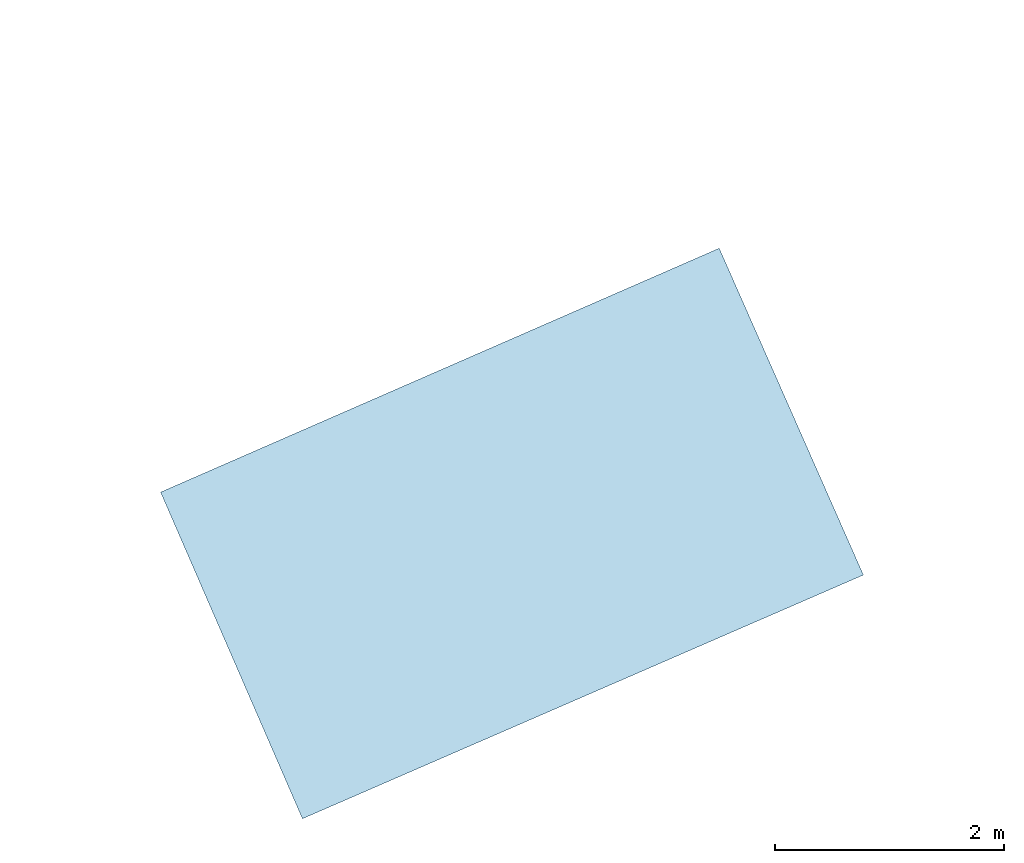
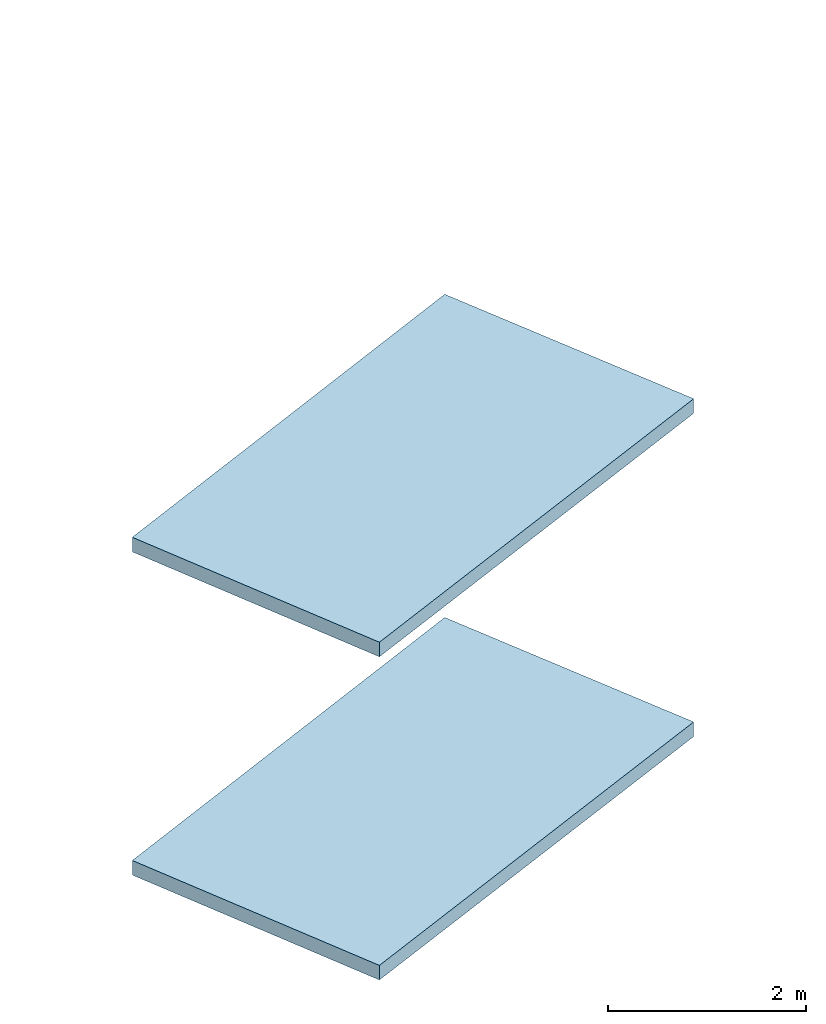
# One storey, part 1 of 31: 2 slabs.
"""IFC2X3 building model written with IfcOpenShell, lengths in centimetres."""

import ifcopenshell
import ifcopenshell.guid

model = None  # the IFC model being written
_history = None  # IfcOwnerHistory: only IFC2X3 demands one
_inside = {}  # id of a spatial element -> (the spatial element, [elements in it])
_under = {}  # id of a project, library or spatial element -> (it, [spatial elements below it])
_declared = {}  # id of a project -> (the project, [libraries it declares])
_typed = {}  # id of a type object -> (the type object, [elements of that type])
_made_of = {}  # id of a material, layer set ... -> (it, [elements and type objects made of it])


def new_model(schema):
    """Start an empty IFC model of exactly this schema.

    Asked for "IFC4X3", IfcOpenShell would pick the latest addendum, in which some entities
    have other attributes; the version numbers below select the first issue.
    IFC2X3 requires an IfcOwnerHistory on every rooted entity: one is made here for all.
    """
    global model, _history
    if schema == "IFC4X3":
        model = ifcopenshell.file(schema_version=(4, 3, 0, 0))
    else:
        model = ifcopenshell.file(schema=schema)
    _inside.clear()
    _under.clear()
    _declared.clear()
    _typed.clear()
    _made_of.clear()
    _history = None
    if model.schema == "IFC2X3":
        org = make("IfcOrganization", Name="unknown")
        user = make(
            "IfcPersonAndOrganization",
            ThePerson=make("IfcPerson", FamilyName="unknown"),
            TheOrganization=org,
        )
        app = make(
            "IfcApplication",
            ApplicationDeveloper=org,
            Version="unknown",
            ApplicationFullName="unknown",
            ApplicationIdentifier="unknown",
        )
        _history = make(
            "IfcOwnerHistory",
            OwningUser=user,
            OwningApplication=app,
            ChangeAction="ADDED",
            CreationDate=0,
        )
    return model


def make(cls, **values):
    """One entity of the class cls with the attributes given. An attribute that is None is left unset."""
    return model.create_entity(
        cls, **{name: value for name, value in values.items() if value is not None}
    )


def entity(cls, *values):
    """Any entity or typed value of the class cls, its attributes in the order of the schema. None: left unset."""
    e = model.create_entity(cls)
    for i, value in enumerate(values):
        if value is not None:
            e[i] = value
    return e


def rooted(cls, **values):
    """An entity with a GlobalId (a new one), such as an element, a storey or a relation."""
    return make(cls, GlobalId=ifcopenshell.guid.new(), OwnerHistory=_history, **values)


def si_unit(unit_type, name, prefix=None):
    """IfcSIUnit, for example si_unit("LENGTHUNIT", "METRE", prefix="MILLI")."""
    return make("IfcSIUnit", UnitType=unit_type, Prefix=prefix, Name=name)


def converted_unit(unit_type, name, factor, base, dimensions=None, offset=None):
    """IfcConversionBasedUnit, such as the inch: factor (a typed value) times the base unit."""
    return make(
        "IfcConversionBasedUnit"
        if offset is None
        else "IfcConversionBasedUnitWithOffset",
        ConversionOffset=offset,
        Dimensions=None
        if dimensions is None
        else entity("IfcDimensionalExponents", *dimensions),
        UnitType=unit_type,
        Name=name,
        ConversionFactor=make(
            "IfcMeasureWithUnit", ValueComponent=factor, UnitComponent=base
        ),
    )


def derived_unit(unit_type, elements):
    """IfcDerivedUnit: a product of units, each with its exponent."""
    return make(
        "IfcDerivedUnit",
        Elements=[
            make("IfcDerivedUnitElement", Unit=unit, Exponent=power)
            for unit, power in elements
        ],
        UnitType=unit_type,
    )


def assignment(units):
    """IfcUnitAssignment: the units of a project."""
    return None if units is None else make("IfcUnitAssignment", Units=units)


def point(xyz):
    """IfcCartesianPoint."""
    return None if xyz is None else make("IfcCartesianPoint", Coordinates=xyz)


def direction(xyz):
    """IfcDirection."""
    return None if xyz is None else make("IfcDirection", DirectionRatios=xyz)


def frame(location, z_axis=None, x_axis=None):
    """IfcAxis2Placement3D, a coordinate frame: its origin and axes. An axis left out is left unset."""
    return make(
        "IfcAxis2Placement3D",
        Location=point(location),
        Axis=direction(z_axis),
        RefDirection=direction(x_axis),
    )


def origin():
    """The frame at (0, 0, 0) with its axes left unset."""
    return frame((0.0, 0.0, 0.0))


def place(relative_to, where):
    """IfcLocalPlacement: puts the frame where relative to a parent placement (None: the world)."""
    return make(
        "IfcLocalPlacement", PlacementRelTo=relative_to, RelativePlacement=where
    )


def context(
    kind, dimensions, precision=None, world=None, true_north=None, identifier=None
):
    """IfcGeometricRepresentationContext, for example the 3D "Model" context."""
    return make(
        "IfcGeometricRepresentationContext",
        ContextIdentifier=identifier,
        ContextType=kind,
        CoordinateSpaceDimension=dimensions,
        Precision=precision,
        WorldCoordinateSystem=world,
        TrueNorth=true_north,
    )


def subcontext(parent, identifier, kind, view, scale=None):
    """IfcGeometricRepresentationSubContext, for example "Body" below "Model"."""
    return make(
        "IfcGeometricRepresentationSubContext",
        ContextIdentifier=identifier,
        ContextType=kind,
        ParentContext=parent,
        TargetScale=scale,
        TargetView=view,
    )


def project(units=None, contexts=None):
    """IfcProject with its units and contexts."""
    return rooted(
        "IfcProject",
        Name="project",
        RepresentationContexts=contexts,
        UnitsInContext=assignment(units),
    )


def spatial(cls, under=None, at=None, **own):
    """A site, building, storey or space (cls), placed at a placement, below another one or the project."""
    s = rooted(cls, ObjectPlacement=at, **own)
    if under is not None:
        _under.setdefault(under.id(), (under, []))[1].append(s)
    return s


def polyline(points):
    """IfcPolyline through the points."""
    return make("IfcPolyline", Points=[point(p) for p in points])


def outline(outer, holes=None, kind="AREA"):
    """IfcArbitraryClosedProfileDef: a profile drawn as a closed curve; with holes, ...WithVoids."""
    if holes is None:
        return make("IfcArbitraryClosedProfileDef", ProfileType=kind, OuterCurve=outer)
    return make(
        "IfcArbitraryProfileDefWithVoids",
        ProfileType=kind,
        OuterCurve=outer,
        InnerCurves=holes,
    )


def extrude(swept, where, along, depth):
    """IfcExtrudedAreaSolid: the profile swept, set in the frame where, extruded along a direction by depth."""
    return make(
        "IfcExtrudedAreaSolid",
        SweptArea=swept,
        Position=where,
        ExtrudedDirection=direction(along),
        Depth=depth,
    )


def shape(context_of_items, identifier, shape_type, items):
    """IfcShapeRepresentation: the items that make up one representation, for example the "Body"."""
    return make(
        "IfcShapeRepresentation",
        ContextOfItems=context_of_items,
        RepresentationIdentifier=identifier,
        RepresentationType=shape_type,
        Items=items,
    )


def material(Name=None, Category=None):
    """IfcMaterial."""
    return make("IfcMaterial", Name=Name, Category=Category)


def layer(
    of_material, thickness, ventilated=None, Name=None, Category=None, Priority=None
):
    """IfcMaterialLayer: one layer of a wall or slab, of a material (None: an air gap)."""
    return make(
        "IfcMaterialLayer",
        Material=of_material,
        LayerThickness=thickness,
        IsVentilated=ventilated,
        Name=Name,
        Category=Category,
        Priority=Priority,
    )


def layer_set(layers, Name=None):
    """IfcMaterialLayerSet."""
    return make("IfcMaterialLayerSet", MaterialLayers=layers, LayerSetName=Name)


def layer_usage(for_layer_set, set_direction, sense, offset, extent=None):
    """IfcMaterialLayerSetUsage: how a layer set lies in its element."""
    return make(
        "IfcMaterialLayerSetUsage",
        ForLayerSet=for_layer_set,
        LayerSetDirection=set_direction,
        DirectionSense=sense,
        OffsetFromReferenceLine=offset,
        ReferenceExtent=extent,
    )


def made_of(thing, what):
    """Note that an element or type object is made of a material, layer set ...; save() writes the relation."""
    if what is not None:
        _made_of.setdefault(what.id(), (what, []))[1].append(thing)
    return thing


def element(
    cls,
    number,
    at=None,
    inside=None,
    cuts=None,
    type_object=None,
    material=None,
    context=None,
    identifier="Body",
    shape_type=None,
    held_by="IfcProductDefinitionShape",
    body=None,
    shapes=None,
    **own,
):
    """One element of the class cls, such as IfcWall. Its Tag is "e" and its number.

    at: its placement. inside: the storey or other place that contains it. cuts: it is an
    opening in that element (IfcRelVoidsElement). A single representation is given by context,
    identifier, shape_type and body (its items); several are given by shapes. held_by: the class
    of the entity that holds the representations. save() writes the other relations.
    """
    e = rooted(cls, Tag="e%d" % number, ObjectPlacement=at, **own)
    if body is not None:
        shapes = [shape(context, identifier, shape_type, body)]
    if shapes is not None:
        e.Representation = make(held_by, Representations=shapes)
    if inside is not None:
        _inside.setdefault(inside.id(), (inside, []))[1].append(e)
    if cuts is not None:
        rooted(
            "IfcRelVoidsElement", RelatingBuildingElement=cuts, RelatedOpeningElement=e
        )
    if type_object is not None:
        _typed.setdefault(type_object.id(), (type_object, []))[1].append(e)
    return made_of(e, material)


def aggregate(whole, parts):
    """IfcRelAggregates: a whole, such as a stair, and the parts it consists of."""
    return rooted("IfcRelAggregates", RelatingObject=whole, RelatedObjects=parts)


def save(model, path):
    """Write the relations noted so far, then the file.

    IfcRelAggregates (storeys below a building ...), IfcRelContainedInSpatialStructure (elements
    in a storey), IfcRelDefinesByType, IfcRelAssociatesMaterial and IfcRelDeclares: one each for
    every whole, place, type object, material and project.
    """
    for whole, parts in _under.values():
        aggregate(whole, parts)
    for where, things in _inside.values():
        rooted(
            "IfcRelContainedInSpatialStructure",
            RelatedElements=things,
            RelatingStructure=where,
        )
    for kind, things in _typed.values():
        rooted("IfcRelDefinesByType", RelatedObjects=things, RelatingType=kind)
    for what, things in _made_of.values():
        rooted("IfcRelAssociatesMaterial", RelatedObjects=things, RelatingMaterial=what)
    for by, libraries in _declared.values():
        rooted("IfcRelDeclares", RelatingContext=by, RelatedDefinitions=libraries)
    model.write(path)


model = new_model("IFC2X3")

# Units and contexts
model_context = context("Model", 3, precision=0.001, world=origin(), true_north=direction((6.12303176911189e-17, 1.0)))
body_context = subcontext(model_context, "Body", "Model", "MODEL_VIEW")
ifc_project = project(units=[si_unit("LENGTHUNIT", "METRE", prefix="CENTI"), si_unit("AREAUNIT", "SQUARE_METRE"), si_unit("VOLUMEUNIT", "CUBIC_METRE"), converted_unit("PLANEANGLEUNIT", "DEGREE", entity("IfcRatioMeasure", 0.0174532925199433), si_unit("PLANEANGLEUNIT", "RADIAN"), dimensions=[0, 0, 0, 0, 0, 0, 0]), si_unit("MASSUNIT", "GRAM", prefix="KILO"), derived_unit("MASSDENSITYUNIT", [(si_unit("MASSUNIT", "GRAM", prefix="KILO"), 1), (si_unit("LENGTHUNIT", "METRE"), -3)]), si_unit("TIMEUNIT", "SECOND"), si_unit("FREQUENCYUNIT", "HERTZ"), si_unit("THERMODYNAMICTEMPERATUREUNIT", "DEGREE_CELSIUS"), derived_unit("THERMALTRANSMITTANCEUNIT", [(si_unit("MASSUNIT", "GRAM", prefix="KILO"), 1), (si_unit("THERMODYNAMICTEMPERATUREUNIT", "KELVIN"), -1), (si_unit("TIMEUNIT", "SECOND"), -3)]), derived_unit("VOLUMETRICFLOWRATEUNIT", [(si_unit("LENGTHUNIT", "METRE"), 3), (si_unit("TIMEUNIT", "SECOND"), -1)]), si_unit("ELECTRICCURRENTUNIT", "AMPERE"), si_unit("ELECTRICVOLTAGEUNIT", "VOLT"), si_unit("POWERUNIT", "WATT"), si_unit("FORCEUNIT", "NEWTON"), si_unit("ILLUMINANCEUNIT", "LUX"), si_unit("LUMINOUSFLUXUNIT", "LUMEN"), si_unit("LUMINOUSINTENSITYUNIT", "CANDELA"), derived_unit("USERDEFINED", [(si_unit("MASSUNIT", "GRAM", prefix="KILO"), -1), (si_unit("LENGTHUNIT", "METRE"), -2), (si_unit("TIMEUNIT", "SECOND"), 3), (si_unit("LUMINOUSFLUXUNIT", "LUMEN"), 1)]), derived_unit("LINEARVELOCITYUNIT", [(si_unit("LENGTHUNIT", "METRE"), 1), (si_unit("TIMEUNIT", "SECOND"), -1)]), si_unit("PRESSUREUNIT", "PASCAL"), derived_unit("USERDEFINED", [(si_unit("LENGTHUNIT", "METRE"), -2), (si_unit("MASSUNIT", "GRAM", prefix="KILO"), 1), (si_unit("TIMEUNIT", "SECOND"), -2)])], contexts=[model_context])

# Site, building, storey
site_placement = place(None, origin())
site = spatial("IfcSite", under=ifc_project, at=site_placement, Name="Default", CompositionType="ELEMENT")
building_placement = place(site_placement, origin())
building = spatial("IfcBuilding", under=site, at=building_placement, Name="CAGE 03", CompositionType="ELEMENT")
storey_placement = place(building_placement, frame((0.0, 0.0, -400.0)))
storey = spatial("IfcBuildingStorey", under=building, at=storey_placement, Name="±0.00", CompositionType="ELEMENT", Elevation=-400.0)

# Slabs
ifc_material = material(Name="Existant")
ifc_layer = layer(ifc_material, 18.0)
ifc_layer_set = layer_set([ifc_layer], Name="Sol:Dalle transfo existant")
ifc_layer_usage_1 = layer_usage(ifc_layer_set, "AXIS3", "POSITIVE", 0.0)
slab_1_placement = place(storey_placement, origin())
element("IfcSlab", 1, at=slab_1_placement, inside=storey, material=ifc_layer_usage_1, Name="Sol:Dalle transfo existant", ObjectType="Sol:Dalle transfo existant", PredefinedType="FLOOR", context=body_context, shape_type="SweptSolid", body=[
    extrude(outline(polyline([(-154.703622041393, -266.620359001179), (157.244158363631, -266.620359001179), (154.217706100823, 267.518588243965), (-156.758242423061, 265.722129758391), (-154.703622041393, -266.620359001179)])), frame((3736.77798995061, 3455.69706727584, 767.0), z_axis=(0.0, 0.0, -1.0), x_axis=(0.403676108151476, -0.914901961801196, 0.0)), (0.0, 0.0, 1.0), 18.0),
])
ifc_layer_usage_2 = layer_usage(ifc_layer_set, "AXIS3", "POSITIVE", 0.0)
slab_2_placement = place(storey_placement, origin())
element("IfcSlab", 2, at=slab_2_placement, inside=storey, material=ifc_layer_usage_2, Name="Sol:Dalle transfo existant", ObjectType="Sol:Dalle transfo existant", PredefinedType="FLOOR", context=body_context, shape_type="SweptSolid", body=[
    extrude(outline(polyline([(-154.703622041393, -266.620359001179), (157.244158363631, -266.620359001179), (154.217706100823, 267.518588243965), (-156.758242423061, 265.722129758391), (-154.703622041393, -266.620359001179)])), frame((3736.77798995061, 3455.69706727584, 368.0), z_axis=(0.0, 0.0, -1.0), x_axis=(0.403676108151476, -0.914901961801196, 0.0)), (0.0, 0.0, 1.0), 18.0),
])

save(model, "model.ifc")
